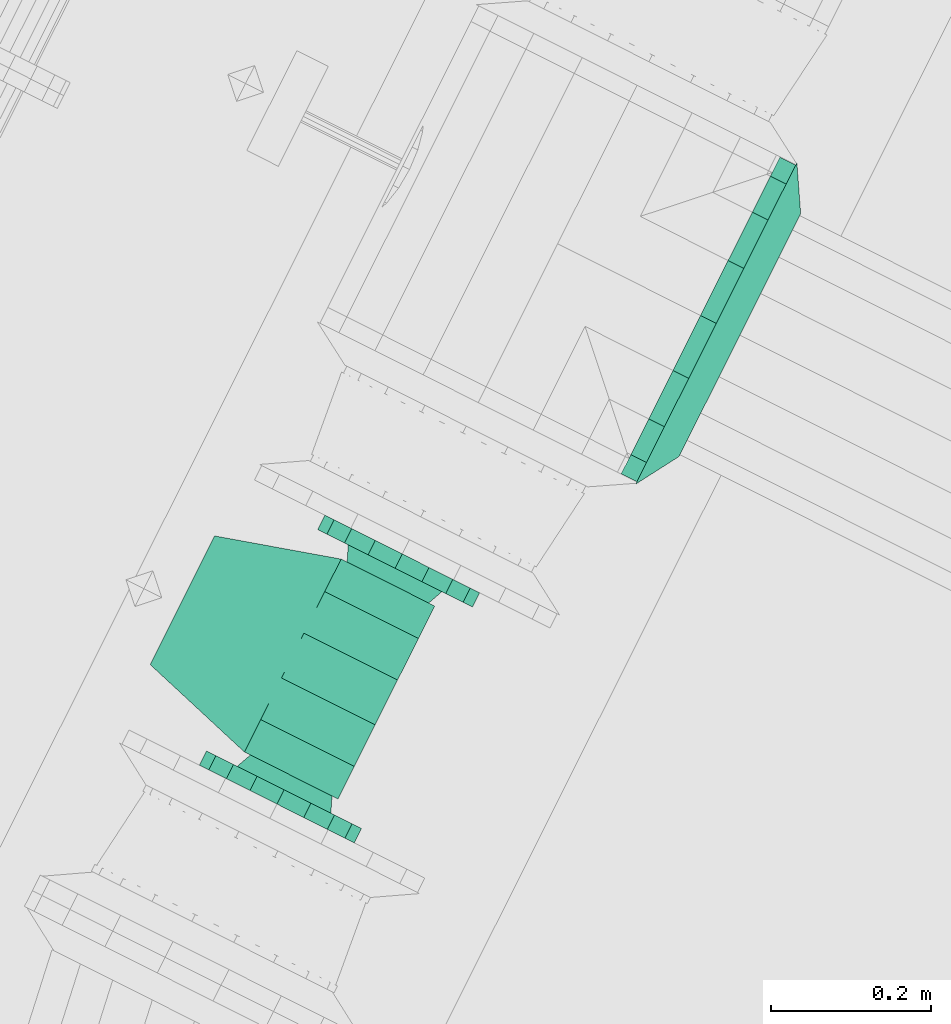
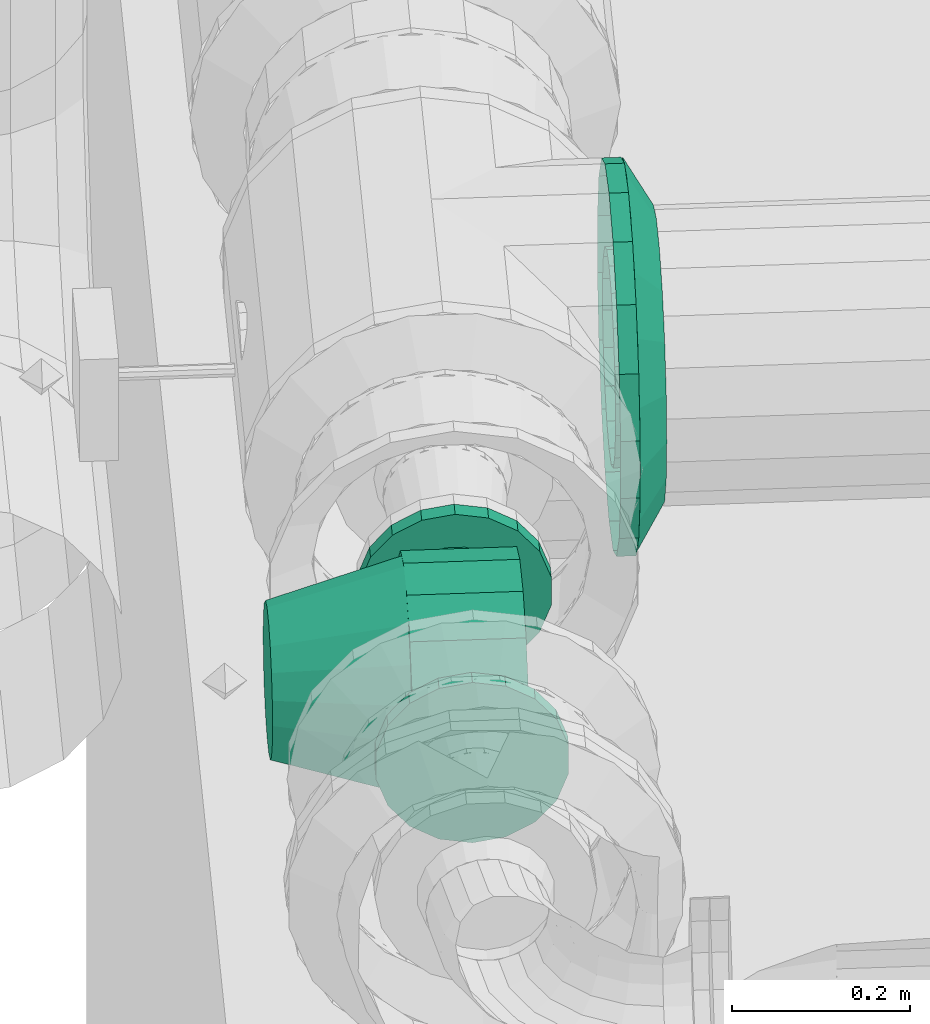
# One storey, part 113 of 206: 1 flow fitting, 1 flow moving device.
"""IFC2X3 building model written with IfcOpenShell, lengths in metres."""

from ifc_helpers import new_model, si_unit, derived_unit, direction, frame, origin, place, context, subcontext, project, spatial, face_set, surface_model, source, transform, mapped, material, type_object, type_shapes, element, save


model = new_model("IFC2X3")

# Units and contexts
model_context = context("Model", 3, precision=5.2338327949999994e-05, world=origin(), true_north=direction((0.0, 1.0)))
body_context = subcontext(model_context, "Body", "Model", "MODEL_VIEW")
ifc_project = project(units=[si_unit("LENGTHUNIT", "METRE"), si_unit("AREAUNIT", "SQUARE_METRE"), si_unit("VOLUMEUNIT", "CUBIC_METRE"), si_unit("MASSUNIT", "GRAM", prefix="KILO"), si_unit("PLANEANGLEUNIT", "RADIAN"), derived_unit("THERMALTRANSMITTANCEUNIT", [(si_unit("MASSUNIT", "GRAM", prefix="KILO"), 1), (si_unit("THERMODYNAMICTEMPERATUREUNIT", "KELVIN"), -1), (si_unit("TIMEUNIT", "SECOND"), -3)])], contexts=[model_context])

# Site, building, storey
site_placement = place(None, frame((0.0, 0.0, 0.0), z_axis=(0.0, 0.0, 1.0), x_axis=(0.8939966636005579, -0.4480736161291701, 0.0)))
site = spatial("IfcSite", under=ifc_project, at=site_placement, Name="Default", CompositionType="ELEMENT")
building_placement = place(site_placement, origin())
building = spatial("IfcBuilding", under=site, at=building_placement, CompositionType="ELEMENT")
storey_placement = place(building_placement, origin())
storey = spatial("IfcBuildingStorey", under=building, at=storey_placement, Name="Erdgeschoss", CompositionType="ELEMENT", Elevation=0.0)

# Flow moving device
ifc_material = material(Name="IfcSurfaceStyle #1741")
distribution_element_type_1 = type_object("IfcDistributionElementType", Name="Inline-Pumpe 319949:Inline-Pumpe 319949", material=ifc_material)
shared_shape_1 = source(origin(), body_context, "Body", "SurfaceModel", [
    surface_model("IfcFaceBasedSurfaceModel", [(23.08485389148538, 6.22496109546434, 2.4639999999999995), (23.047231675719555, 6.22496109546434, 2.457366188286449), (23.047231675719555, 6.2049610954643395, 2.457366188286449), (23.08485389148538, 6.20496109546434, 2.4640000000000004), (23.01414725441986, 6.22496109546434, 2.438264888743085), (23.01414725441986, 6.2049610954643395, 2.438264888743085), (22.989591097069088, 6.22496109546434, 2.4089999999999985), (22.989591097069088, 6.2049610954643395, 2.4089999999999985), (22.976525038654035, 6.22496109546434, 2.373101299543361), (22.976525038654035, 6.2049610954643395, 2.373101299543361), (22.976525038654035, 6.22496109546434, 2.3348987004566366), (22.976525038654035, 6.2049610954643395, 2.3348987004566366), (22.98959109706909, 6.22496109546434, 2.298999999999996), (22.98959109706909, 6.2049610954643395, 2.298999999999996), (23.01414725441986, 6.22496109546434, 2.2697351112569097), (23.01414725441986, 6.2049610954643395, 2.2697351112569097), (23.047231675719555, 6.22496109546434, 2.2506338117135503), (23.047231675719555, 6.2049610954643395, 2.2506338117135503), (23.08485389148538, 6.22496109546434, 2.243999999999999), (23.08485389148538, 6.2049610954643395, 2.243999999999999), (23.122476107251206, 6.22496109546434, 2.25063381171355), (23.122476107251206, 6.2049610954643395, 2.25063381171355), (23.155560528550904, 6.22496109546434, 2.269735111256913), (23.155560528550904, 6.2049610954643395, 2.269735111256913), (23.180116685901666, 6.22496109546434, 2.299000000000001), (23.180116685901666, 6.2049610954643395, 2.299000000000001), (23.193182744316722, 6.22496109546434, 2.3348987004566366), (23.193182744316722, 6.2049610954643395, 2.3348987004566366), (23.193182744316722, 6.22496109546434, 2.373101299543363), (23.193182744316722, 6.2049610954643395, 2.373101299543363), (23.180116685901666, 6.22496109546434, 2.4090000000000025), (23.180116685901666, 6.2049610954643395, 2.4090000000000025), (23.1555605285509, 6.22496109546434, 2.43826488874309), (23.1555605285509, 6.2049610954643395, 2.43826488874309), (23.122476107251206, 6.22496109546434, 2.4573661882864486), (23.122476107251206, 6.2049610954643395, 2.4573661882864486), (23.08485389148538, 6.2049610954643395, 2.354), (23.08485389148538, 6.22496109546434, 2.354), (23.150353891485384, 6.2049610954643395, 2.354), (23.14640375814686, 6.2049610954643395, 2.376402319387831), (23.138557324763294, 6.184961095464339, 2.3735464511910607), (23.142003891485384, 6.184961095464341, 2.3539999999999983), (23.135029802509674, 6.2049610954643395, 2.396102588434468), (23.128633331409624, 6.184961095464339, 2.3907353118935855), (23.11760389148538, 6.20496109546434, 2.410724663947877), (23.113428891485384, 6.184961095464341, 2.4034933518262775), (23.096227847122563, 6.2049610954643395, 2.4185049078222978), (23.09477788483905, 6.184961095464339, 2.410281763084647), (23.073479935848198, 6.2049610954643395, 2.418504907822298), (23.074929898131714, 6.184961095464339, 2.410281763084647), (23.05210389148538, 6.2049610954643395, 2.4107246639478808), (23.056278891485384, 6.184961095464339, 2.403493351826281), (23.034677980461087, 6.20496109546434, 2.396102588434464), (23.04107445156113, 6.184961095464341, 2.390735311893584), (23.023304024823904, 6.2049610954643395, 2.3764023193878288), (23.031150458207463, 6.184961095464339, 2.373546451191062), (23.01935389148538, 6.204961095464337, 2.3539999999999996), (23.02770389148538, 6.184961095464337, 2.354000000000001), (23.023304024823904, 6.204961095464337, 2.331597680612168), (23.031150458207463, 6.184961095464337, 2.3344535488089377), (23.034677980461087, 6.2049610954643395, 2.31189741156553), (23.04107445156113, 6.184961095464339, 2.317264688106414), (23.052103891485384, 6.2049610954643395, 2.2972753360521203), (23.05627889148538, 6.184961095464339, 2.304506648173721), (23.073479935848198, 6.2049610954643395, 2.2894950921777), (23.074929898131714, 6.184961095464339, 2.2977182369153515), (23.096227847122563, 6.2049610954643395, 2.2894950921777), (23.094777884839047, 6.184961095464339, 2.2977182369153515), (23.11760389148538, 6.2049610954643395, 2.2972753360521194), (23.113428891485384, 6.184961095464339, 2.3045066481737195), (23.135029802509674, 6.2049610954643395, 2.3118974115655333), (23.128633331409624, 6.184961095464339, 2.3172646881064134), (23.146403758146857, 6.2049610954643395, 2.331597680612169), (23.138557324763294, 6.184961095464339, 2.334453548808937), (23.14200389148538, 5.914961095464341, 2.3539999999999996), (23.13855732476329, 5.914961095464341, 2.373546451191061), (23.146403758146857, 5.894961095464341, 2.376402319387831), (23.150353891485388, 5.894961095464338, 2.3539999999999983), (23.12863333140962, 5.9149610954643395, 2.390735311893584), (23.13502980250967, 5.894961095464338, 2.3961025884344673), (23.11342889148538, 5.91496109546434, 2.403493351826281), (23.11760389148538, 5.894961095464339, 2.410724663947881), (23.094777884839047, 5.9149610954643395, 2.4102817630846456), (23.096227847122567, 5.894961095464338, 2.418504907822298), (23.074929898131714, 5.9149610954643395, 2.410281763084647), (23.073479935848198, 5.894961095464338, 2.4185049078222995), (23.056278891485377, 5.9149610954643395, 2.4034933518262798), (23.05210389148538, 5.894961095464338, 2.4107246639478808), (23.041074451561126, 5.9149610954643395, 2.3907353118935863), (23.034677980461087, 5.894961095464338, 2.3961025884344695), (23.03115045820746, 5.9149610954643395, 2.3735464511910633), (23.0233040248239, 5.894961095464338, 2.3764023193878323), (23.02770389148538, 5.914961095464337, 2.3539999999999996), (23.019353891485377, 5.894961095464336, 2.353999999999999), (23.03115045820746, 5.9149610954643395, 2.3344535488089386), (23.0233040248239, 5.894961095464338, 2.3315976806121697), (23.041074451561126, 5.91496109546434, 2.3172646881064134), (23.034677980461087, 5.894961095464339, 2.3118974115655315), (23.056278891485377, 5.9149610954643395, 2.3045066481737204), (23.05210389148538, 5.894961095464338, 2.2972753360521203), (23.07492989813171, 5.9149610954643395, 2.297718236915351), (23.073479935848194, 5.894961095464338, 2.2894950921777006), (23.09477788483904, 5.9149610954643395, 2.2977182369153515), (23.096227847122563, 5.894961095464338, 2.2894950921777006), (23.11342889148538, 5.9149610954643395, 2.304506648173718), (23.11760389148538, 5.894961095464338, 2.297275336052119), (23.12863333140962, 5.9149610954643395, 2.3172646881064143), (23.135029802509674, 5.894961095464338, 2.3118974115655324), (23.138557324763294, 5.914961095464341, 2.3344535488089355), (23.14640375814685, 5.894961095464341, 2.331597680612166), (23.08485389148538, 5.894961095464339, 2.4639999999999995), (23.047231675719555, 5.894961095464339, 2.4573661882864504), (23.047231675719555, 5.874961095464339, 2.4573661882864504), (23.08485389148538, 5.874961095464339, 2.4639999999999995), (23.014147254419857, 5.894961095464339, 2.438264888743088), (23.014147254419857, 5.874961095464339, 2.438264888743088), (22.989591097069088, 5.894961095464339, 2.4089999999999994), (22.989591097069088, 5.874961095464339, 2.4089999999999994), (22.97652503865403, 5.894961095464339, 2.3731012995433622), (22.97652503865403, 5.874961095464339, 2.3731012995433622), (22.97652503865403, 5.894961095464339, 2.3348987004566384), (22.97652503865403, 5.874961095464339, 2.3348987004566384), (22.989591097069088, 5.894961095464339, 2.2990000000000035), (22.989591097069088, 5.874961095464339, 2.2990000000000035), (23.014147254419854, 5.894961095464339, 2.269735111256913), (23.014147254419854, 5.874961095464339, 2.269735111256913), (23.047231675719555, 5.894961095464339, 2.2506338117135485), (23.047231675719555, 5.874961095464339, 2.2506338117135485), (23.084853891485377, 5.894961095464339, 2.2439999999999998), (23.084853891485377, 5.874961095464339, 2.2439999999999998), (23.122476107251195, 5.894961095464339, 2.2506338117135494), (23.122476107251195, 5.874961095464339, 2.2506338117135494), (23.155560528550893, 5.894961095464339, 2.269735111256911), (23.155560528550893, 5.874961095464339, 2.269735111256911), (23.180116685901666, 5.894961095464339, 2.2989999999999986), (23.180116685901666, 5.874961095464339, 2.2989999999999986), (23.19318274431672, 5.894961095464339, 2.3348987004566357), (23.19318274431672, 5.874961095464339, 2.3348987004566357), (23.19318274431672, 5.894961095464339, 2.373101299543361), (23.19318274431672, 5.874961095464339, 2.373101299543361), (23.180116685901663, 5.894961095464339, 2.4089999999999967), (23.180116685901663, 5.874961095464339, 2.4089999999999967), (23.1555605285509, 5.894961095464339, 2.438264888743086), (23.1555605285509, 5.874961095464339, 2.438264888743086), (23.1224761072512, 5.894961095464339, 2.457366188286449), (23.1224761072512, 5.874961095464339, 2.457366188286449), (23.08485389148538, 5.894961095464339, 2.354), (23.08485389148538, 5.874961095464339, 2.354), (23.019353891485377, 6.184961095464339, 2.419500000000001), (23.019353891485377, 6.184961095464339, 2.2885000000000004), (23.150353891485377, 6.184961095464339, 2.288499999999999), (23.150353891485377, 6.184961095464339, 2.4194999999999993), (23.019353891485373, 5.9149610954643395, 2.2885000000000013), (23.019353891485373, 5.960383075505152, 2.245269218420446), (23.150353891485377, 5.960383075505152, 2.245269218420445), (23.150353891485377, 5.9149610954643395, 2.2885), (23.019353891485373, 6.018608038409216, 2.2219902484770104), (23.150353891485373, 6.018608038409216, 2.221990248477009), (23.019353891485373, 6.081314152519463, 2.221990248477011), (23.150353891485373, 6.081314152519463, 2.221990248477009), (23.019353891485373, 6.139539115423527, 2.2452692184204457), (23.150353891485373, 6.139539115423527, 2.2452692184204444), (23.019353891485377, 5.9149610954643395, 2.419500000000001), (23.150353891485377, 5.9149610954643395, 2.4194999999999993), (23.019353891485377, 6.139539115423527, 2.4627307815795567), (23.150353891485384, 6.139539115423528, 2.4627307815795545), (23.019353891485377, 6.081314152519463, 2.48600975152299), (23.150353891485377, 6.081314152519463, 2.486009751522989), (23.019353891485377, 6.018608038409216, 2.48600975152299), (23.150353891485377, 6.0186080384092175, 2.486009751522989), (23.019353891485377, 5.960383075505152, 2.4627307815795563), (23.150353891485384, 5.960383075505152, 2.462730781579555), (23.019353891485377, 5.91496109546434, 2.3539999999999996), (23.019353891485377, 5.923102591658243, 2.4001727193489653), (22.86485389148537, 5.965388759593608, 2.3847818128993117), (22.864853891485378, 5.9599610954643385, 2.354000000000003), (23.019353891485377, 5.946545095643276, 2.4407763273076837), (22.864853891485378, 5.9810170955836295, 2.4118508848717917), (23.019353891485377, 5.98246109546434, 2.4709134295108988), (22.864853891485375, 6.004961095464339, 2.431942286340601), (23.019353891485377, 6.026518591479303, 2.4869490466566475), (22.86485389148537, 6.0343327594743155, 2.4426326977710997), (23.019353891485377, 6.073403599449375, 2.4869490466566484), (22.86485389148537, 6.065589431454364, 2.4426326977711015), (23.019353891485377, 6.117461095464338, 2.4709134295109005), (22.864853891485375, 6.094961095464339, 2.431942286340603), (23.019353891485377, 6.1533770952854, 2.4407763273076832), (22.864853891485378, 6.118905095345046, 2.4118508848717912), (23.019353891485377, 6.176819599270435, 2.4001727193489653), (22.86485389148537, 6.134533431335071, 2.3847818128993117), (23.019353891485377, 6.184961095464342, 2.3540000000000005), (22.864853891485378, 6.139961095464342, 2.354000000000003), (23.019353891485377, 6.176819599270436, 2.3078272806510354), (22.864853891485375, 6.134533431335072, 2.323218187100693), (23.019353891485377, 6.153377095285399, 2.267223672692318), (22.86485389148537, 6.1189050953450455, 2.2961491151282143), (23.019353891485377, 6.117461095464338, 2.2370865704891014), (22.86485389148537, 6.094961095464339, 2.2760577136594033), (23.019353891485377, 6.073403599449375, 2.221050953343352), (22.864853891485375, 6.065589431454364, 2.2653673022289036), (23.019353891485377, 6.026518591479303, 2.221050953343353), (22.864853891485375, 6.0343327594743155, 2.265367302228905), (23.019353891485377, 5.9824610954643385, 2.2370865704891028), (22.86485389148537, 6.004961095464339, 2.2760577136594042), (23.019353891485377, 5.946545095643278, 2.2672236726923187), (22.86485389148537, 5.981017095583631, 2.2961491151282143), (23.019353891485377, 5.923102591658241, 2.3078272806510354), (22.864853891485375, 5.9653887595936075, 2.323218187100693), (22.864853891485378, 6.049961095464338, 2.354000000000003)], [face_set([[[0, 1, 2, 3]], [[1, 4, 5, 2]], [[4, 6, 7, 5]], [[6, 8, 9, 7]], [[8, 10, 11, 9]], [[10, 12, 13, 11]], [[12, 14, 15, 13]], [[14, 16, 17, 15]], [[16, 18, 19, 17]], [[18, 20, 21, 19]], [[20, 22, 23, 21]], [[22, 24, 25, 23]], [[24, 26, 27, 25]], [[26, 28, 29, 27]], [[28, 30, 31, 29]], [[30, 32, 33, 31]], [[32, 34, 35, 33]], [[34, 0, 3, 35]], [[36, 35, 3]], [[36, 33, 35]], [[36, 31, 33]], [[36, 29, 31]], [[36, 27, 29]], [[36, 25, 27]], [[36, 23, 25]], [[36, 21, 23]], [[36, 19, 21]], [[36, 17, 19]], [[36, 15, 17]], [[36, 13, 15]], [[36, 11, 13]], [[36, 9, 11]], [[36, 7, 9]], [[36, 5, 7]], [[36, 2, 5]], [[36, 3, 2]], [[37, 1, 0]], [[37, 4, 1]], [[37, 6, 4]], [[37, 8, 6]], [[37, 10, 8]], [[37, 12, 10]], [[37, 14, 12]], [[37, 16, 14]], [[37, 18, 16]], [[37, 20, 18]], [[37, 22, 20]], [[37, 24, 22]], [[37, 26, 24]], [[37, 28, 26]], [[37, 30, 28]], [[37, 32, 30]], [[37, 34, 32]], [[37, 0, 34]], [[38, 39, 40, 41]], [[39, 42, 43, 40]], [[42, 44, 45, 43]], [[44, 46, 47, 45]], [[46, 48, 49, 47]], [[48, 50, 51, 49]], [[50, 52, 53, 51]], [[52, 54, 55, 53]], [[54, 56, 57, 55]], [[56, 58, 59, 57]], [[58, 60, 61, 59]], [[60, 62, 63, 61]], [[62, 64, 65, 63]], [[64, 66, 67, 65]], [[66, 68, 69, 67]], [[68, 70, 71, 69]], [[70, 72, 73, 71]], [[72, 38, 41, 73]], [[74, 75, 76, 77]], [[75, 78, 79, 76]], [[78, 80, 81, 79]], [[80, 82, 83, 81]], [[82, 84, 85, 83]], [[84, 86, 87, 85]], [[86, 88, 89, 87]], [[88, 90, 91, 89]], [[90, 92, 93, 91]], [[92, 94, 95, 93]], [[94, 96, 97, 95]], [[96, 98, 99, 97]], [[98, 100, 101, 99]], [[100, 102, 103, 101]], [[102, 104, 105, 103]], [[104, 106, 107, 105]], [[106, 108, 109, 107]], [[108, 74, 77, 109]], [[110, 111, 112, 113]], [[111, 114, 115, 112]], [[114, 116, 117, 115]], [[116, 118, 119, 117]], [[118, 120, 121, 119]], [[120, 122, 123, 121]], [[122, 124, 125, 123]], [[124, 126, 127, 125]], [[126, 128, 129, 127]], [[128, 130, 131, 129]], [[130, 132, 133, 131]], [[132, 134, 135, 133]], [[134, 136, 137, 135]], [[136, 138, 139, 137]], [[138, 140, 141, 139]], [[140, 142, 143, 141]], [[142, 144, 145, 143]], [[144, 110, 113, 145]], [[146, 111, 110]], [[146, 114, 111]], [[146, 116, 114]], [[146, 118, 116]], [[146, 120, 118]], [[146, 122, 120]], [[146, 124, 122]], [[146, 126, 124]], [[146, 128, 126]], [[146, 130, 128]], [[146, 132, 130]], [[146, 134, 132]], [[146, 136, 134]], [[146, 138, 136]], [[146, 140, 138]], [[146, 142, 140]], [[146, 144, 142]], [[146, 110, 144]], [[147, 145, 113]], [[147, 143, 145]], [[147, 141, 143]], [[147, 139, 141]], [[147, 137, 139]], [[147, 135, 137]], [[147, 133, 135]], [[147, 131, 133]], [[147, 129, 131]], [[147, 127, 129]], [[147, 125, 127]], [[147, 123, 125]], [[147, 121, 123]], [[147, 119, 121]], [[147, 117, 119]], [[147, 115, 117]], [[147, 112, 115]], [[147, 113, 112]], [[148, 149, 150, 151]], [[152, 153, 154, 155]], [[153, 156, 157, 154]], [[156, 158, 159, 157]], [[158, 160, 161, 159]], [[160, 149, 150, 161]], [[152, 162, 163, 155]], [[148, 164, 165, 151]], [[164, 166, 167, 165]], [[166, 168, 169, 167]], [[168, 170, 171, 169]], [[170, 162, 163, 171]], [[161, 150, 151]], [[159, 161, 151]], [[157, 159, 151]], [[154, 157, 151]], [[155, 154, 151]], [[163, 155, 151]], [[171, 163, 151]], [[169, 171, 151]], [[167, 169, 151]], [[165, 167, 151]], [[148, 149, 160]], [[148, 160, 158]], [[148, 158, 156]], [[148, 156, 153]], [[148, 153, 152]], [[148, 152, 162]], [[148, 162, 170]], [[148, 170, 168]], [[148, 168, 166]], [[148, 166, 164]], [[172, 173, 174, 175]], [[173, 176, 177, 174]], [[176, 178, 179, 177]], [[178, 180, 181, 179]], [[180, 182, 183, 181]], [[182, 184, 185, 183]], [[184, 186, 187, 185]], [[186, 188, 189, 187]], [[188, 190, 191, 189]], [[190, 192, 193, 191]], [[192, 194, 195, 193]], [[194, 196, 197, 195]], [[196, 198, 199, 197]], [[198, 200, 201, 199]], [[200, 202, 203, 201]], [[202, 204, 205, 203]], [[204, 206, 207, 205]], [[206, 172, 175, 207]], [[208, 207, 175]], [[208, 205, 207]], [[208, 203, 205]], [[208, 201, 203]], [[208, 199, 201]], [[208, 197, 199]], [[208, 195, 197]], [[208, 193, 195]], [[208, 191, 193]], [[208, 189, 191]], [[208, 187, 189]], [[208, 185, 187]], [[208, 183, 185]], [[208, 181, 183]], [[208, 179, 181]], [[208, 177, 179]], [[208, 174, 177]], [[208, 175, 174]]])]),
])
type_shapes(distribution_element_type_1, [shared_shape_1])
flow_moving_device_placement = place(storey_placement, origin())
element("IfcFlowMovingDevice", 1, at=flow_moving_device_placement, inside=storey, type_object=distribution_element_type_1, material=ifc_material, Name="Inline-Pumpe", ObjectType="Inline-Pumpe", context=body_context, shape_type="MappedRepresentation", body=[
    mapped(shared_shape_1, transform((0.0, 0.0, 0.0), scale=1.0)),
])

# Flow fitting
distribution_element_type_2 = type_object("IfcDistributionElementType", Name="Flansch 320780:Flansch 320780", material=ifc_material)
shared_shape_2 = source(origin(), body_context, "Body", "SurfaceModel", [
    surface_model("IfcFaceBasedSurfaceModel", [(23.284853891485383, 6.658961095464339, 2.479), (23.284853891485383, 6.616208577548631, 2.471461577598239), (23.306853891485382, 6.616208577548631, 2.471461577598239), (23.306853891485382, 6.658961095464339, 2.479), (23.284853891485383, 6.578612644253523, 2.449755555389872), (23.306853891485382, 6.578612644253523, 2.449755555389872), (23.284853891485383, 6.550707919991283, 2.416500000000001), (23.306853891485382, 6.550707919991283, 2.416500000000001), (23.284853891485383, 6.535860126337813, 2.3757060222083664), (23.306853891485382, 6.535860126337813, 2.3757060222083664), (23.284853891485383, 6.535860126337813, 2.3322939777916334), (23.306853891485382, 6.535860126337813, 2.3322939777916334), (23.284853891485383, 6.550707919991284, 2.2915), (23.306853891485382, 6.550707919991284, 2.2915), (23.284853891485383, 6.578612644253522, 2.2582444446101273), (23.306853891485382, 6.578612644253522, 2.2582444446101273), (23.284853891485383, 6.616208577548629, 2.2365384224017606), (23.306853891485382, 6.616208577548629, 2.2365384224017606), (23.284853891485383, 6.6589610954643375, 2.2290000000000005), (23.306853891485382, 6.6589610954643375, 2.2290000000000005), (23.284853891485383, 6.701713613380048, 2.236538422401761), (23.306853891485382, 6.701713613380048, 2.236538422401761), (23.284853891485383, 6.739309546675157, 2.258244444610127), (23.306853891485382, 6.739309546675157, 2.258244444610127), (23.284853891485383, 6.7672142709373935, 2.2915), (23.306853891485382, 6.7672142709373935, 2.2915), (23.284853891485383, 6.782062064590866, 2.332293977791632), (23.306853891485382, 6.782062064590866, 2.332293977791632), (23.284853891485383, 6.782062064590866, 2.3757060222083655), (23.306853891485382, 6.782062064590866, 2.3757060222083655), (23.284853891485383, 6.767214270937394, 2.4165), (23.306853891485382, 6.767214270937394, 2.4165), (23.284853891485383, 6.739309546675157, 2.4497555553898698), (23.306853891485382, 6.739309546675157, 2.4497555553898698), (23.284853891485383, 6.7017136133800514, 2.471461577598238), (23.306853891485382, 6.7017136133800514, 2.471461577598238), (23.30685389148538, 6.658961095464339, 2.354), (23.306853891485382, 6.580961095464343, 2.353999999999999), (23.306853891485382, 6.585665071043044, 2.327322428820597), (23.339853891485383, 6.593323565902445, 2.330109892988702), (23.339853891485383, 6.5891110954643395, 2.3539999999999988), (23.306853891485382, 6.599209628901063, 2.303862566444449), (23.339853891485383, 6.60545289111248, 2.3091012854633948), (23.306853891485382, 6.619961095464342, 2.2864500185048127), (23.339853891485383, 6.6240360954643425, 2.2935081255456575), (23.306853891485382, 6.645416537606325, 2.2771849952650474), (23.339853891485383, 6.646831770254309, 2.285211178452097), (23.306853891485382, 6.672505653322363, 2.2771849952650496), (23.339853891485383, 6.6710904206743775, 2.2852111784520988), (23.306853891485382, 6.697961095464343, 2.286450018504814), (23.339853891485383, 6.693886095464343, 2.293508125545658), (23.306853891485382, 6.718712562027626, 2.303862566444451), (23.339853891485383, 6.712469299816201, 2.3091012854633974), (23.306853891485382, 6.732257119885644, 2.3273224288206), (23.339853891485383, 6.724598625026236, 2.3301098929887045), (23.306853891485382, 6.736961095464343, 2.354000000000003), (23.339853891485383, 6.728811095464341, 2.354000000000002), (23.306853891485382, 6.7322571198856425, 2.380677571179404), (23.339853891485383, 6.724598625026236, 2.3778901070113), (23.306853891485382, 6.718712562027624, 2.4041374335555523), (23.339853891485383, 6.712469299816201, 2.398898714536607), (23.306853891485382, 6.69796109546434, 2.421549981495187), (23.339853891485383, 6.69388609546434, 2.4144918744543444), (23.306853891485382, 6.672505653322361, 2.4308150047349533), (23.339853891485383, 6.671090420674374, 2.422788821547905), (23.306853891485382, 6.645416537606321, 2.430815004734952), (23.339853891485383, 6.646831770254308, 2.4227888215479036), (23.306853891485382, 6.619961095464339, 2.4215499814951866), (23.339853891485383, 6.624036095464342, 2.414491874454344), (23.306853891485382, 6.59920962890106, 2.4041374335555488), (23.339853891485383, 6.605452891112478, 2.3988987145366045), (23.306853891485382, 6.5856650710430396, 2.3806775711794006), (23.339853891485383, 6.593323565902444, 2.377890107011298), (23.284853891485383, 6.65896109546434, 2.579), (23.284853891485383, 6.582006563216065, 2.5654308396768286), (23.306853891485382, 6.582006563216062, 2.565430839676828), (23.306853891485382, 6.6589610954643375, 2.5789999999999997), (23.284853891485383, 6.514333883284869, 2.5263599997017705), (23.306853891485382, 6.514333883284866, 2.5263599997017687), (23.284853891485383, 6.464105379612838, 2.4665000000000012), (23.306853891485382, 6.464105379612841, 2.466499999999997), (23.284853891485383, 6.437379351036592, 2.393070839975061), (23.306853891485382, 6.4373793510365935, 2.393070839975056), (23.284853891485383, 6.437379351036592, 2.314929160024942), (23.306853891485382, 6.437379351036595, 2.314929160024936), (23.284853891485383, 6.464105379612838, 2.2415000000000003), (23.306853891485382, 6.464105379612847, 2.2414999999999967), (23.284853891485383, 6.5143338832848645, 2.1816400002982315), (23.306853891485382, 6.514333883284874, 2.181640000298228), (23.284853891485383, 6.582006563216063, 2.1425691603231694), (23.306853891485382, 6.58200656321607, 2.1425691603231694), (23.284853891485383, 6.658961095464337, 2.128999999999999), (23.306853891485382, 6.658961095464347, 2.1290000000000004), (23.284853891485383, 6.735915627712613, 2.1425691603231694), (23.306853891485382, 6.735915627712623, 2.1425691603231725), (23.284853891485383, 6.803588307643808, 2.18164000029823), (23.306853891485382, 6.803588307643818, 2.1816400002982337), (23.284853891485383, 6.853816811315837, 2.241499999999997), (23.306853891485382, 6.853816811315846, 2.241500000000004), (23.284853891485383, 6.880542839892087, 2.3149291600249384), (23.306853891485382, 6.880542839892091, 2.3149291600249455), (23.284853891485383, 6.880542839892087, 2.3930708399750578), (23.306853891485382, 6.88054283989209, 2.3930708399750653), (23.284853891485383, 6.853816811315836, 2.466499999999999), (23.306853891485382, 6.8538168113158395, 2.4665000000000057), (23.284853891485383, 6.803588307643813, 2.5263599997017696), (23.306853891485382, 6.803588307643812, 2.5263599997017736), (23.284853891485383, 6.735915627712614, 2.565430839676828), (23.306853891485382, 6.735915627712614, 2.5654308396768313), (23.306853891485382, 6.433961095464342, 2.353999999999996), (23.306853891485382, 6.4475302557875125, 2.2770454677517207), (23.339853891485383, 6.499354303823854, 2.2959078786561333), (23.339853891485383, 6.489111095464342, 2.353999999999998), (23.306853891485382, 6.486601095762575, 2.209372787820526), (23.339853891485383, 6.528848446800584, 2.24482252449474), (23.306853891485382, 6.546461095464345, 2.1591442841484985), (23.339853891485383, 6.574036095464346, 2.2069055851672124), (23.306853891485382, 6.619890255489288, 2.132418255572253), (23.339853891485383, 6.629466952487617, 2.1867304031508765), (23.306853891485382, 6.698031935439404, 2.1324182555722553), (23.339853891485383, 6.688455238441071, 2.186730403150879), (23.306853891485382, 6.771461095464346, 2.1591442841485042), (23.339853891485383, 6.743886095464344, 2.206905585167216), (23.306853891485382, 6.831321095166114, 2.2093727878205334), (23.339853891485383, 6.789073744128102, 2.244822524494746), (23.306853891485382, 6.870391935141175, 2.277045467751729), (23.339853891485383, 6.818567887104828, 2.2959078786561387), (23.306853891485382, 6.8839610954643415, 2.3540000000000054), (23.339853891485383, 6.828811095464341, 2.3540000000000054), (23.306853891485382, 6.870391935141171, 2.430954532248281), (23.339853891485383, 6.818567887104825, 2.412092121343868), (23.306853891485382, 6.831321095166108, 2.4986272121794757), (23.339853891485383, 6.789073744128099, 2.4631774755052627), (23.306853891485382, 6.771461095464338, 2.5488557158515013), (23.339853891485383, 6.743886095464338, 2.5010944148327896), (23.306853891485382, 6.6980319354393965, 2.5755817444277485), (23.339853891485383, 6.688455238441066, 2.521269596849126), (23.306853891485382, 6.6198902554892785, 2.5755817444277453), (23.339853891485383, 6.629466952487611, 2.521269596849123), (23.306853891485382, 6.5464610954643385, 2.5488557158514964), (23.339853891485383, 6.574036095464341, 2.501094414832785), (23.306853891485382, 6.486601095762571, 2.4986272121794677), (23.339853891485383, 6.528848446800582, 2.463177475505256), (23.306853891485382, 6.447530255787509, 2.430954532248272), (23.339853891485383, 6.4993543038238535, 2.4120921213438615)], [face_set([[[0, 1, 2, 3]], [[1, 4, 5, 2]], [[4, 6, 7, 5]], [[6, 8, 9, 7]], [[8, 10, 11, 9]], [[10, 12, 13, 11]], [[12, 14, 15, 13]], [[14, 16, 17, 15]], [[16, 18, 19, 17]], [[18, 20, 21, 19]], [[20, 22, 23, 21]], [[22, 24, 25, 23]], [[24, 26, 27, 25]], [[26, 28, 29, 27]], [[28, 30, 31, 29]], [[30, 32, 33, 31]], [[32, 34, 35, 33]], [[34, 0, 3, 35]], [[36, 35, 3]], [[36, 33, 35]], [[36, 31, 33]], [[36, 29, 31]], [[36, 27, 29]], [[36, 25, 27]], [[36, 23, 25]], [[36, 21, 23]], [[36, 19, 21]], [[36, 17, 19]], [[36, 15, 17]], [[36, 13, 15]], [[36, 11, 13]], [[36, 9, 11]], [[36, 7, 9]], [[36, 5, 7]], [[36, 2, 5]], [[36, 3, 2]], [[37, 38, 39, 40]], [[38, 41, 42, 39]], [[41, 43, 44, 42]], [[43, 45, 46, 44]], [[45, 47, 48, 46]], [[47, 49, 50, 48]], [[49, 51, 52, 50]], [[51, 53, 54, 52]], [[53, 55, 56, 54]], [[55, 57, 58, 56]], [[57, 59, 60, 58]], [[59, 61, 62, 60]], [[61, 63, 64, 62]], [[63, 65, 66, 64]], [[65, 67, 68, 66]], [[67, 69, 70, 68]], [[69, 71, 72, 70]], [[71, 37, 40, 72]], [[73, 74, 75, 76]], [[74, 77, 78, 75]], [[77, 79, 80, 78]], [[79, 81, 82, 80]], [[81, 83, 84, 82]], [[83, 85, 86, 84]], [[85, 87, 88, 86]], [[87, 89, 90, 88]], [[89, 91, 92, 90]], [[91, 93, 94, 92]], [[93, 95, 96, 94]], [[95, 97, 98, 96]], [[97, 99, 100, 98]], [[99, 101, 102, 100]], [[101, 103, 104, 102]], [[103, 105, 106, 104]], [[105, 107, 108, 106]], [[107, 73, 76, 108]], [[109, 110, 111, 112]], [[110, 113, 114, 111]], [[113, 115, 116, 114]], [[115, 117, 118, 116]], [[117, 119, 120, 118]], [[119, 121, 122, 120]], [[121, 123, 124, 122]], [[123, 125, 126, 124]], [[125, 127, 128, 126]], [[127, 129, 130, 128]], [[129, 131, 132, 130]], [[131, 133, 134, 132]], [[133, 135, 136, 134]], [[135, 137, 138, 136]], [[137, 139, 140, 138]], [[139, 141, 142, 140]], [[141, 143, 144, 142]], [[143, 109, 112, 144]]])]),
])
type_shapes(distribution_element_type_2, [shared_shape_2])
flow_fitting_placement = place(storey_placement, origin())
element("IfcFlowFitting", 2, at=flow_fitting_placement, inside=storey, type_object=distribution_element_type_2, material=ifc_material, Name="Flansch", ObjectType="Flansch", context=body_context, shape_type="MappedRepresentation", body=[
    mapped(shared_shape_2, transform((0.0, 0.0, 0.0), scale=1.0)),
])

save(model, "model.ifc")
